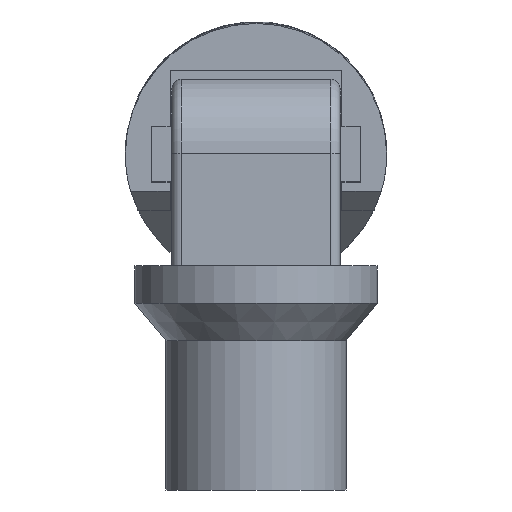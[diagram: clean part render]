
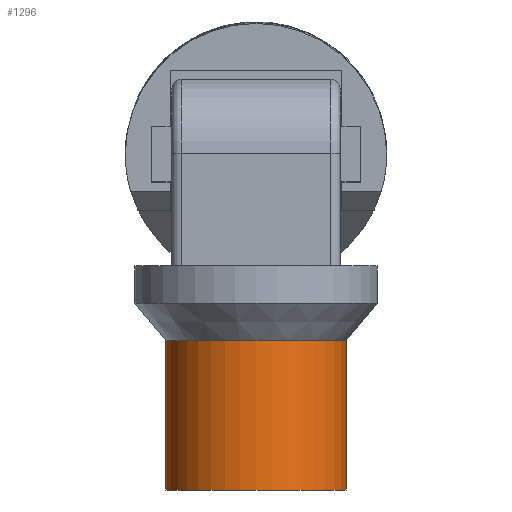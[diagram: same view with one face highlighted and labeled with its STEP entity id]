
A CAD part, front view. The second image highlights one B-rep face of the part: STEP entity #1296.
In plain terms, the highlighted cylindrical face has radius 4.822 mm (diameter 9.644 mm), a partial arc.
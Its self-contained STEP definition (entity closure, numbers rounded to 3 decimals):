
#1 = VERTEX_POINT ( 'NONE', #1228 ) ;
#171 = ORIENTED_EDGE ( 'NONE', *, *, #1090, .F. ) ;
#230 = CARTESIAN_POINT ( 'NONE',  ( -4.822, 0., -2. ) ) ;
#266 = DIRECTION ( 'NONE',  ( -1., 0., 0. ) ) ;
#496 = DIRECTION ( 'NONE',  ( 0., 0., 1. ) ) ;
#528 = VECTOR ( 'NONE', #2364, 1000. ) ;
#570 = DIRECTION ( 'NONE',  ( 1., 0., 0. ) ) ;
#704 = AXIS2_PLACEMENT_3D ( 'NONE', #2537, #1179, #1453 ) ;
#820 = CARTESIAN_POINT ( 'NONE',  ( 4.822, 0., -2. ) ) ;
#918 = VECTOR ( 'NONE', #496, 1000. ) ;
#945 = CYLINDRICAL_SURFACE ( 'NONE', #2579, 4.822 ) ;
#1023 = EDGE_CURVE ( 'NONE', #1, #2104, #1687, .T. ) ;
#1090 = EDGE_CURVE ( 'NONE', #1, #1658, #1252, .T. ) ;
#1120 = ORIENTED_EDGE ( 'NONE', *, *, #3456, .F. ) ;
#1179 = DIRECTION ( 'NONE',  ( 0., 0., -1. ) ) ;
#1228 = CARTESIAN_POINT ( 'NONE',  ( 4.822, 0., -10. ) ) ;
#1252 = CIRCLE ( 'NONE', #1914, 4.822 ) ;
#1296 = ADVANCED_FACE ( 'NONE', ( #3399 ), #945, .T. ) ;
#1453 = DIRECTION ( 'NONE',  ( -1., 0., 0. ) ) ;
#1466 = CARTESIAN_POINT ( 'NONE',  ( -4.822, 0., -10. ) ) ;
#1610 = ORIENTED_EDGE ( 'NONE', *, *, #2225, .T. ) ;
#1658 = VERTEX_POINT ( 'NONE', #1466 ) ;
#1687 = LINE ( 'NONE', #2378, #918 ) ;
#1914 = AXIS2_PLACEMENT_3D ( 'NONE', #3521, #2960, #266 ) ;
#1922 = CARTESIAN_POINT ( 'NONE',  ( 0., 0., -10. ) ) ;
#1977 = LINE ( 'NONE', #2417, #528 ) ;
#2104 = VERTEX_POINT ( 'NONE', #820 ) ;
#2225 = EDGE_CURVE ( 'NONE', #2104, #3479, #3451, .T. ) ;
#2364 = DIRECTION ( 'NONE',  ( 0., 0., 1. ) ) ;
#2378 = CARTESIAN_POINT ( 'NONE',  ( 4.822, 0., -10. ) ) ;
#2417 = CARTESIAN_POINT ( 'NONE',  ( -4.822, 0., -10. ) ) ;
#2537 = CARTESIAN_POINT ( 'NONE',  ( 0., 0., -2. ) ) ;
#2579 = AXIS2_PLACEMENT_3D ( 'NONE', #1922, #3322, #570 ) ;
#2960 = DIRECTION ( 'NONE',  ( 0., 0., -1. ) ) ;
#3129 = ORIENTED_EDGE ( 'NONE', *, *, #1023, .T. ) ;
#3204 = EDGE_LOOP ( 'NONE', ( #1120, #171, #3129, #1610 ) ) ;
#3322 = DIRECTION ( 'NONE',  ( 0., 0., 1. ) ) ;
#3399 = FACE_OUTER_BOUND ( 'NONE', #3204, .T. ) ;
#3451 = CIRCLE ( 'NONE', #704, 4.822 ) ;
#3456 = EDGE_CURVE ( 'NONE', #1658, #3479, #1977, .T. ) ;
#3479 = VERTEX_POINT ( 'NONE', #230 ) ;
#3521 = CARTESIAN_POINT ( 'NONE',  ( 0., 0., -10. ) ) ;
